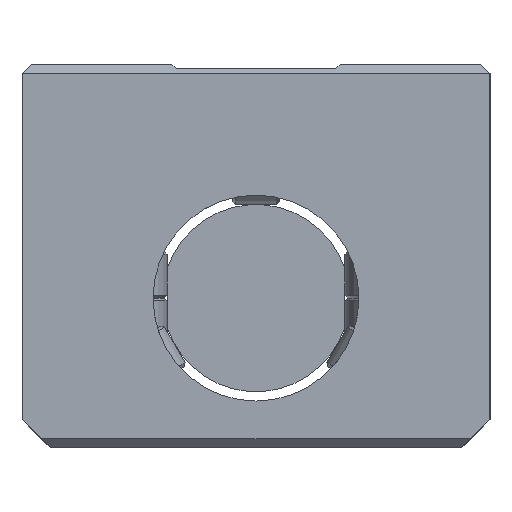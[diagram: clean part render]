
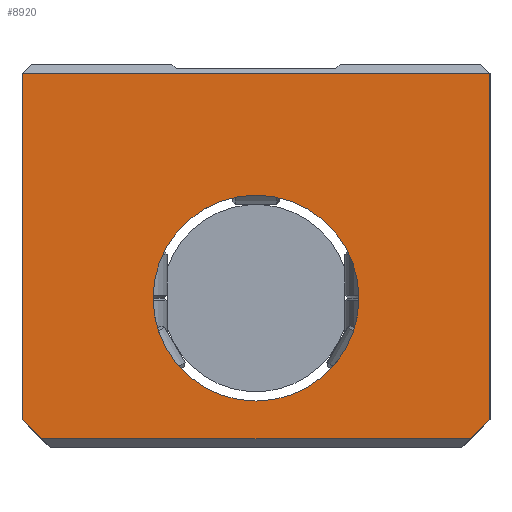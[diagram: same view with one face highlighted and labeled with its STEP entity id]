
A CAD part, left-side view. The second image highlights one B-rep face of the part: STEP entity #8920.
In plain terms, the highlighted planar face has unit normal (-1, 0, 0).
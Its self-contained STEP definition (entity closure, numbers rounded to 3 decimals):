
#7958=CARTESIAN_POINT('',(188.07,-25.0,24.));
#7959=VERTEX_POINT('',#7958);
#7968=CARTESIAN_POINT('',(188.07,-25.0,-13.));
#7969=VERTEX_POINT('',#7968);
#7970=CARTESIAN_POINT('',(188.07,-25.0,24.));
#7971=DIRECTION('',(0.0,0.0,-1.0));
#7972=VECTOR('',#7971,37.);
#7973=LINE('',#7970,#7972);
#7974=EDGE_CURVE('',#7959,#7969,#7973,.T.);
#8701=CARTESIAN_POINT('',(188.07,25.0,24.));
#8702=VERTEX_POINT('',#8701);
#8709=CARTESIAN_POINT('',(188.07,25.0,24.));
#8710=DIRECTION('',(0.0,-1.0,0.0));
#8711=VECTOR('',#8710,50.0);
#8712=LINE('',#8709,#8711);
#8713=EDGE_CURVE('',#8702,#7959,#8712,.T.);
#8842=CARTESIAN_POINT('',(188.07,-23.,-15.));
#8843=VERTEX_POINT('',#8842);
#8844=CARTESIAN_POINT('',(188.07,-25.0,-13.));
#8845=DIRECTION('',(0.0,0.707,-0.707));
#8846=VECTOR('',#8845,2.828);
#8847=LINE('',#8844,#8846);
#8848=EDGE_CURVE('',#7969,#8843,#8847,.T.);
#8865=CARTESIAN_POINT('',(188.07,23.,-15.));
#8866=VERTEX_POINT('',#8865);
#8875=CARTESIAN_POINT('',(188.07,-23.,-15.));
#8876=DIRECTION('',(0.0,1.0,0.0));
#8877=VECTOR('',#8876,46.);
#8878=LINE('',#8875,#8877);
#8879=EDGE_CURVE('',#8843,#8866,#8878,.T.);
#8884=CARTESIAN_POINT('',(188.07,-17.,24.75));
#8885=DIRECTION('',(1.0,0.0,0.0));
#8886=DIRECTION('',(0.0,0.0,-1.0));
#8887=AXIS2_PLACEMENT_3D('',#8884,#8885,#8886);
#8888=PLANE('',#8887);
#8889=ORIENTED_EDGE('',*,*,#8879,.F.);
#8890=ORIENTED_EDGE('',*,*,#8848,.F.);
#8891=ORIENTED_EDGE('',*,*,#7974,.F.);
#8892=ORIENTED_EDGE('',*,*,#8713,.F.);
#8893=CARTESIAN_POINT('',(188.07,25.0,-13.));
#8894=VERTEX_POINT('',#8893);
#8895=CARTESIAN_POINT('',(188.07,25.0,-13.));
#8896=DIRECTION('',(0.0,0.0,1.0));
#8897=VECTOR('',#8896,37.);
#8898=LINE('',#8895,#8897);
#8899=EDGE_CURVE('',#8894,#8702,#8898,.T.);
#8900=ORIENTED_EDGE('',*,*,#8899,.F.);
#8901=CARTESIAN_POINT('',(188.07,23.,-15.));
#8902=DIRECTION('',(0.0,0.707,0.707));
#8903=VECTOR('',#8902,2.828);
#8904=LINE('',#8901,#8903);
#8905=EDGE_CURVE('',#8866,#8894,#8904,.T.);
#8906=ORIENTED_EDGE('',*,*,#8905,.F.);
#8907=EDGE_LOOP('',(#8889,#8890,#8891,#8892,#8900,#8906));
#8908=FACE_OUTER_BOUND('',#8907,.T.);
#8909=CARTESIAN_POINT('',(188.07,11.0,0.));
#8910=VERTEX_POINT('',#8909);
#8911=CARTESIAN_POINT('',(188.07,0.0,0.0));
#8912=DIRECTION('',(1.0,0.0,0.0));
#8913=DIRECTION('',(0.0,-1.0,0.0));
#8914=AXIS2_PLACEMENT_3D('',#8911,#8912,#8913);
#8915=CIRCLE('',#8914,11.0);
#8916=EDGE_CURVE('',#8910,#8910,#8915,.T.);
#8917=ORIENTED_EDGE('',*,*,#8916,.T.);
#8918=EDGE_LOOP('',(#8917));
#8919=FACE_BOUND('',#8918,.T.);
#8920=ADVANCED_FACE('',(#8908,#8919),#8888,.F.);
